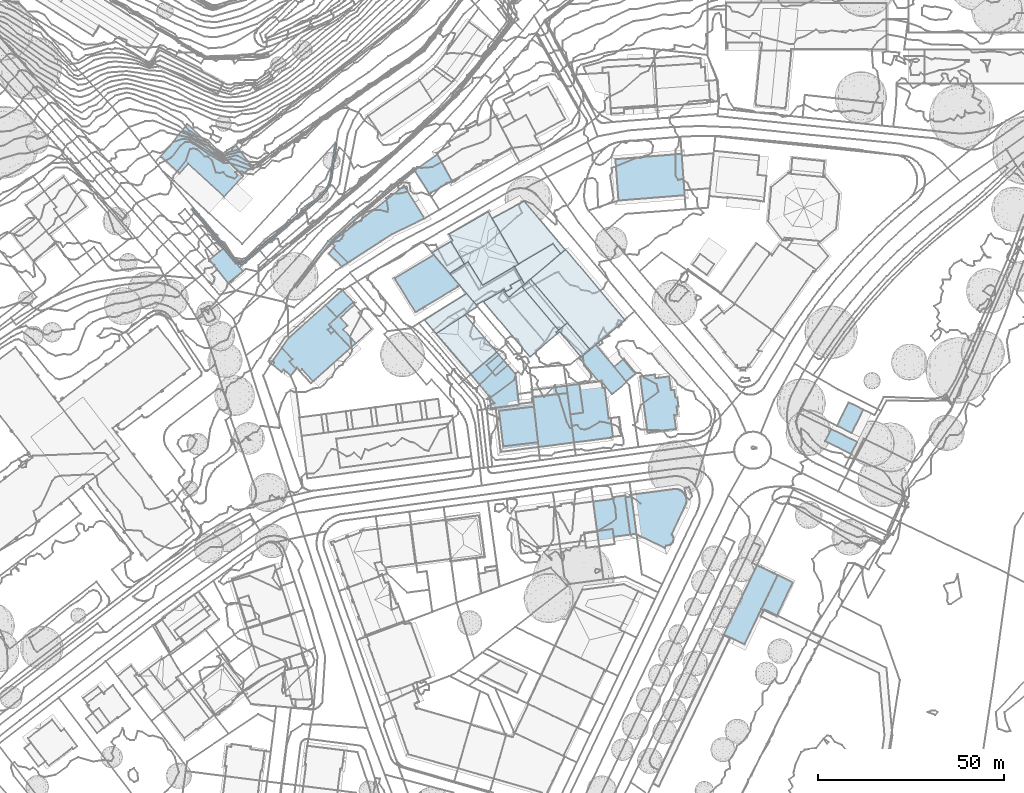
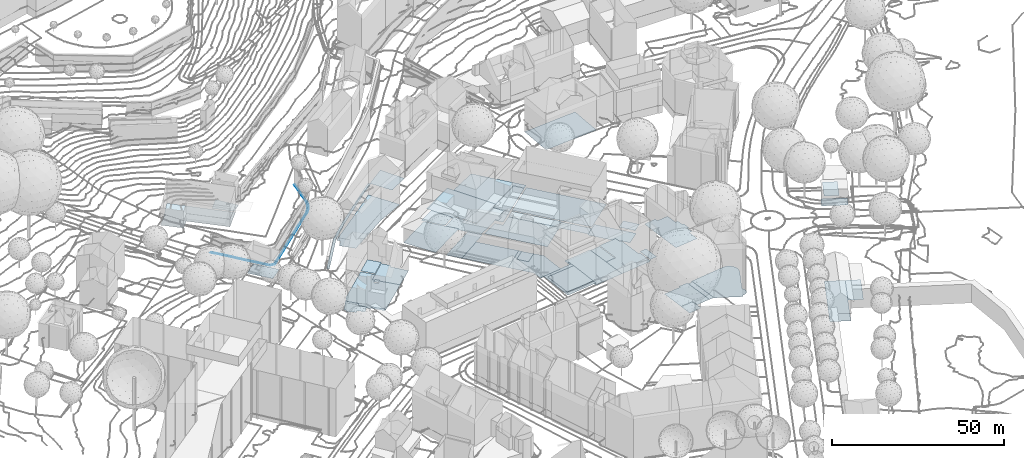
# Not in any storey, part 12 of 494: 26 footings.
"""IFC2X3 model written with IfcOpenShell, lengths in metres."""

from ifc_helpers import new_model, si_unit, frame, origin_with_axes, place, context, subcontext, project, faceted_brep, element, save


model = new_model("IFC2X3")

# Units and contexts
model_context = context("Model", 3, precision=1e-05, world=origin_with_axes())
body_context = subcontext(model_context, "Body", "Model", "MODEL_VIEW")
ifc_project = project(units=[si_unit("AREAUNIT", "SQUARE_METRE"), si_unit("LENGTHUNIT", "METRE")], contexts=[model_context])

# Footings
footing_1_placement = place(None, frame((211.8297320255, 101.9383160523, 526.7541), z_axis=(0.0, 0.0, 1.0), x_axis=(1.0, 0.0, 0.0)))
element("IfcFooting", 1, at=footing_1_placement, Name="Floor 6", PredefinedType="STRIP_FOOTING", context=body_context, shape_type="Brep", body=[
    faceted_brep([(249.8320000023, 131.75, -24.7557), (254.3800000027, 136.2890000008, -24.7557), (250.4350000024, 131.2080000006, -24.7557), (253.7380000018, 136.7811999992, -24.7557), (266.2190000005, 149.3291000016, -24.7556), (259.5580000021, 143.1543000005, -24.7556), (258.9550000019, 143.6981999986, -24.7556), (282.4279999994, 162.6162, -24.7556), (272.2770000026, 155.3280999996, -24.7556), (278.2740000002, 160.3418000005, -24.7556), (281.9240000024, 163.2490000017, -24.7556), (278.7850000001, 159.7148000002, -24.7556), (265.688000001, 149.9393999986, -24.7556), (272.7919999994, 154.7050999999, -24.7556)], [[[0, 1, 2]], [[0, 3, 1]], [[4, 5, 6]], [[3, 5, 1]], [[3, 6, 5]], [[7, 8, 9]], [[10, 7, 9]], [[11, 8, 7]], [[6, 12, 4]], [[8, 11, 12]], [[13, 4, 12]], [[11, 13, 12]]]),
])
footing_2_placement = place(None, frame((211.8297320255, 101.9383160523, 526.7541), z_axis=(0.0, 0.0, 1.0), x_axis=(1.0, 0.0, 0.0)))
element("IfcFooting", 2, at=footing_2_placement, Name="Floor 22", PredefinedType="STRIP_FOOTING", context=body_context, shape_type="Brep", body=[
    faceted_brep([(224.5700000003, 149.4979999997, -21.8519), (224.1130000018, 150.6992000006, -21.8519), (224.887000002, 149.7558000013, -21.8519), (223.8020000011, 150.4354999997, -21.8519), (230.3049999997, 142.3515000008, -21.8519), (222.6460000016, 152.3729999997, -21.8519), (222.3390000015, 152.1055000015, -21.8519), (234.1660000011, 137.6680000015, -21.8519), (235.6790000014, 137.8515000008, -21.8519), (235.8020000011, 137.4208999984, -21.8519), (234.381000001, 138.0487999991, -21.8519), (250.8890000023, 150.807599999, -21.8519), (251.1520000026, 150.495099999, -21.8519), (230.6209999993, 142.6094000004, -21.8519), (257.0040000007, 155.3935000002, -21.8519), (256.7200000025, 155.6875, -21.8519), (258.0700000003, 157.1942999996, -21.8519), (258.882000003, 158.6044999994, -21.8519), (258.4030000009, 156.9530999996, -21.8519), (259.2550000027, 158.433600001, -21.8519), (259.4840000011, 160.3339999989, -21.8519), (259.8830000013, 160.2391999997, -21.8519), (260.3660000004, 163.8740000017, -21.8519), (260.8489999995, 169.8828000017, -21.8519), (259.9620000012, 163.9316000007, -21.8519), (261.2530000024, 169.8222000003, -21.8519)], [[[0, 1, 2]], [[0, 3, 1]], [[2, 4, 0]], [[5, 1, 3]], [[3, 6, 5]], [[7, 8, 9]], [[7, 10, 8]], [[9, 11, 12]], [[10, 7, 13]], [[4, 2, 13]], [[9, 8, 11]], [[7, 4, 13]], [[14, 12, 15]], [[15, 16, 14]], [[12, 11, 15]], [[16, 17, 18]], [[18, 14, 16]], [[17, 19, 18]], [[20, 21, 19]], [[19, 17, 20]], [[20, 22, 21]], [[23, 22, 24]], [[22, 23, 25]], [[22, 20, 24]]]),
])
footing_3_placement = place(None, frame((541.9047320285, 175.7068160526, 499.9965), z_axis=(0.0, 0.0, 1.0), x_axis=(1.0, 0.0, 0.0)))
element("IfcFooting", 3, at=footing_3_placement, Name="Floor 0", PredefinedType="STRIP_FOOTING", context=body_context, shape_type="Brep", body=[
    faceted_brep([(5.7719999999, -11.4081999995, -0.055), (1.057, -7.9266999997, -0.055), (5.231999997, -7.3680999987, -0.055), (1.5959999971, -11.9668000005, -0.055), (7.068, 1.4023999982, 0.0), (9.9579999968, -8.871100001, 0.0), (5.231999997, -7.3680999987, 0.0), (5.6139999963, 0.7481000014, 0.0), (8.5829999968, 1.6055000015, 0.0), (5.5539999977, 1.1992999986, 0.0), (5.5289999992, -9.4618999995, 0.0), (5.5399999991, -9.6748000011, 0.0), (2.8939999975, 0.3858000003, 0.0), (0.6689999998, -5.0166000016, 0.0), (0.0, 0.0, 0.0), (1.057, -7.9266999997, 0.0), (5.557, -9.6728000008, 0.0), (9.9580999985, -8.8709999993, -0.078), (8.5830999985, 1.6055000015, -0.0781), (8.6780999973, 1.1552999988, -0.0781), (10.2219999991, 1.8262000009, -0.078), (9.9959999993, 1.3321000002, -0.078), (11.6259999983, -8.6484000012, -0.078), (11.5799999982, -8.308600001, -0.078), (9.2049999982, 1.2256000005, -0.078), (8.6169999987, 1.6114000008, -0.078), (9.9729999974, 1.5058999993, -0.078), (9.9349999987, 1.7881000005, -0.078)], [[[0, 1, 2]], [[1, 0, 3]], [[4, 5, 6]], [[6, 7, 4]], [[8, 5, 4]], [[4, 7, 9]], [[5, 10, 6]], [[6, 10, 11]], [[12, 7, 6]], [[6, 13, 12]], [[14, 12, 13]], [[15, 13, 6]], [[10, 16, 11]], [[17, 18, 19]], [[20, 17, 21]], [[22, 17, 23]], [[17, 20, 23]], [[17, 19, 24]], [[19, 18, 25]], [[20, 26, 27]], [[20, 21, 26]], [[21, 17, 24]]]),
])
footing_4_placement = place(None, frame((552.1267320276, 177.5330160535, 499.9185), z_axis=(0.0, 0.0, 1.0), x_axis=(1.0, 0.0, 0.0)))
element("IfcFooting", 4, at=footing_4_placement, Name="Floor 0", PredefinedType="STRIP_FOOTING", context=body_context, shape_type="Brep", body=[
    faceted_brep([(2.5260000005, -2.3779000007, 0.0), (0.0789999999, -0.563500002, 0.0), (5.9250000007, 0.7881000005, 0.0), (0.0, 0.0, 0.0), (0.4459999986, -3.3291000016, 0.0), (0.0789999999, -0.5859000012, 0.0), (1.4279999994, -10.6562000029, 0.0), (2.2459999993, -11.0516999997, 0.0), (13.0519999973, -5.8867000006, 0.0), (9.6290000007, 1.2793000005, 0.0), (11.2719999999, 1.498999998, 0.0), (14.1779999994, -3.5381000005, 0.0), (10.7780000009, -10.629900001, 0.0), (10.879999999, -10.7344000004, 0.0), (11.1559999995, -12.6357000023, -0.0001), (11.057, -10.9648000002, 0.0), (8.8770000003, -14.2539000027, -0.0001), (11.5439999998, 1.5312999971, 0.0), (11.818, 1.5400999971, 0.0), (11.1919999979, -11.2236000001, 0.0), (9.3559999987, -13.5976000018, -0.0001), (10.2159999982, -13.5029000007, -0.0001), (10.0779999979, -13.5478000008, -0.0001), (9.5009999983, -13.6123000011, -0.0001), (9.0099999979, -14.3183000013, -0.0001), (9.7919999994, -13.6055000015, -0.0001), (11.2949999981, -12.2226000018, -0.0001), (11.3239999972, -11.7871000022, 0.0), (11.3269999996, -11.933600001, 0.0), (11.2609999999, -12.3641999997, -0.0001), (10.7159999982, -13.2080000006, -0.0001), (10.4780000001, -13.3769000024, -0.0001), (11.0109999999, -12.8877000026, -0.0001), (10.8229999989, -13.1103000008, -0.0001), (11.2819999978, -11.4990000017, 0.0), (14.5260000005, -2.8115000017, 0.0), (12.0909999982, 1.5224999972, 0.0), (12.3609999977, 1.4814999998, 0.0), (12.6279999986, 1.4169999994, 0.0), (12.8869999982, 1.3280999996, 0.0), (13.2019999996, 1.1807000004, 0.0), (13.1369999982, 1.2157999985, 0.0), (13.6019999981, 0.927699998, 0.0), (13.8129999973, 0.753899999, 0.0), (13.3759999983, 1.0830000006, 0.0), (14.1840000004, 0.3525999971, 0.0), (14.3330000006, 0.1405999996, 0.0), (14.5729999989, -0.3144000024, 0.0), (14.0079999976, 0.5605999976, 0.0), (14.4619999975, -0.0810000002, 0.0), (14.7399999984, -2.1816000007, 0.0), (14.7630000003, -2.0780999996, 0.0), (14.7509999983, -0.8905999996, 0.0), (14.7049999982, -2.3291000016, 0.0), (14.6259999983, -2.5742000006, 0.0), (14.2989999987, -3.2842000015, 0.0), (14.6629999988, -0.5547000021, 0.0), (14.8039999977, -1.259800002, 0.0), (14.7339999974, -0.8027000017, 0.0), (14.7819999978, -1.0516999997, 0.0), (14.8159999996, -1.567400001, 0.0), (14.8000000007, -1.8242000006, 0.0), (14.8099999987, -1.3104999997, 0.0)], [[[0, 1, 2]], [[3, 2, 1]], [[0, 4, 5]], [[0, 6, 4]], [[7, 6, 0]], [[8, 7, 0]], [[2, 8, 0]], [[8, 2, 9]], [[9, 10, 11]], [[12, 13, 14]], [[15, 14, 13]], [[8, 12, 7]], [[12, 16, 7]], [[17, 18, 10]], [[19, 14, 15]], [[12, 20, 16]], [[21, 22, 12]], [[12, 23, 20]], [[20, 24, 16]], [[22, 25, 12]], [[25, 23, 12]], [[26, 14, 19]], [[27, 28, 26]], [[19, 27, 26]], [[29, 14, 26]], [[30, 31, 12]], [[14, 32, 33]], [[12, 33, 30]], [[12, 14, 33]], [[21, 12, 31]], [[27, 19, 34]], [[35, 18, 36]], [[35, 36, 37]], [[35, 38, 39]], [[35, 37, 38]], [[40, 39, 41]], [[42, 43, 44]], [[40, 44, 35]], [[44, 43, 45]], [[45, 35, 44]], [[46, 47, 45]], [[43, 48, 45]], [[39, 40, 35]], [[49, 47, 46]], [[35, 45, 50]], [[45, 51, 50]], [[47, 52, 51]], [[53, 54, 50]], [[8, 9, 11]], [[55, 18, 35]], [[55, 11, 10]], [[50, 54, 35]], [[47, 51, 45]], [[52, 47, 56]], [[51, 52, 57]], [[52, 56, 58]], [[52, 59, 57]], [[51, 60, 61]], [[62, 60, 57]], [[57, 60, 51]], [[18, 55, 10]]]),
])
footing_5_placement = place(None, frame((498.6247320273, 242.5555160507, 500.7935), z_axis=(0.0, 0.0, 1.0), x_axis=(1.0, 0.0, 0.0)))
element("IfcFooting", 5, at=footing_5_placement, Name="Floor 0", PredefinedType="STRIP_FOOTING", context=body_context, shape_type="Brep", body=[
    faceted_brep([(18.7349999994, -10.3310999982, -0.6109), (13.5709999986, -8.7636999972, -0.6109), (18.6279999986, -10.191399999, -0.6109), (22.1109999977, -3.7314999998, -0.6109), (19.3709999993, -9.7636999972, -0.6109), (20.9739999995, -8.8407999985, -0.6109), (21.4030000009, -9.5859999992, -0.6109), (19.8000000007, -10.5088, -0.6109), (24.0399999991, -7.0761999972, -0.6109), (11.9100000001, -14.0595999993, -0.6109), (4.7369999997, -5.5927999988, -0.6109), (13.7329999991, -13.0097999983, -0.6109), (13.8579999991, -13.1591999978, -0.6109), (9.6979999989, -2.5058999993, -0.6109), (4.5920000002, 4.933600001, -0.3969), (15.112999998, 10.9550999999, -0.3969), (5.5850000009, 3.1972000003, -0.3969), (23.2469999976, -3.1708999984, -0.397), (22.1109999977, -3.7314999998, -0.397), (22.1510000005, -3.8017999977, -0.397), (9.6979999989, -2.5058999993, -0.3969), (8.6909999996, -3.1327999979, -0.3969), (5.1400000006, 2.942400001, -0.3969), (13.5709999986, -8.7636999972, -0.397), (5.1400000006, 2.942400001, 0.0), (4.7369999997, -5.5927999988, 0.0), (0.0, 0.0, 0.0), (8.6909999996, -3.1327999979, 0.0)], [[[0, 1, 2]], [[3, 4, 1]], [[5, 6, 4]], [[7, 4, 6]], [[5, 3, 8]], [[4, 2, 1]], [[9, 10, 11]], [[12, 11, 1]], [[4, 3, 5]], [[11, 10, 1]], [[13, 1, 10]], [[0, 12, 1]], [[14, 15, 16]], [[17, 18, 15]], [[17, 19, 18]], [[20, 15, 18]], [[16, 21, 22]], [[20, 18, 23]], [[21, 16, 20]], [[20, 16, 15]], [[24, 25, 26]], [[25, 24, 27]]]),
])
footing_6_placement = place(None, frame((509.0277320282, 209.8641160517, 500.1695), z_axis=(0.0, 0.0, 1.0), x_axis=(1.0, 0.0, 0.0)))
element("IfcFooting", 6, at=footing_6_placement, Name="Floor 0", PredefinedType="STRIP_FOOTING", context=body_context, shape_type="Brep", body=[
    faceted_brep([(9.9829999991, 2.4756000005, -0.036), (6.6600000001, -0.3438000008, -0.036), (8.7029999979, 3.9756000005, -0.036), (7.5979999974, 5.2714000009, -0.036), (4.2829999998, 2.4598999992, -0.036), (7.5979999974, 5.2714000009, 0.0), (4.2829999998, 2.4598999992, 0.0), (6.993999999, 5.9794999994, 0.0), (3.3189999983, 2.8379000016, 0.0), (9.9829999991, 2.4756000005, 0.0), (12.0689999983, 0.0302000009, 0.0), (6.6600000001, -0.3438000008, 0.0), (0.0, 0.0, 0.0), (0.9890000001, 0.8456999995, 0.0), (4.9479999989, -5.8213, 0.0), (5.0979999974, -5.9970999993, 0.0), (12.9749999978, -8.1699999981, 0.0), (11.2359999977, -8.3993999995, 0.0), (7.9239999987, -8.8359999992, 0.0), (5.6979999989, -9.128899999, 0.0), (5.4809999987, -9.1572999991, 0.0), (6.435999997, -9.0313000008, 0.0), (5.7249999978, -9.3515999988, 0.0), (5.5069999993, -9.3759999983, 0.0)], [[[0, 1, 2]], [[2, 1, 3]], [[1, 4, 3]], [[5, 6, 7]], [[6, 8, 7]], [[9, 10, 11]], [[12, 13, 14]], [[14, 13, 11]], [[13, 8, 6]], [[11, 13, 6]], [[11, 15, 14]], [[16, 17, 11]], [[18, 15, 17]], [[17, 15, 11]], [[19, 20, 15]], [[15, 21, 19]], [[19, 22, 20]], [[20, 22, 23]], [[18, 21, 15]], [[11, 10, 16]]]),
])
footing_7_placement = place(None, frame((512.3577320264, 229.5457160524, 499.1847), z_axis=(0.0, 0.0, 1.0), x_axis=(1.0, 0.0, 0.0)))
element("IfcFooting", 7, at=footing_7_placement, Name="Floor 0", PredefinedType="STRIP_FOOTING", context=body_context, shape_type="Brep", body=[
    faceted_brep([(20.5769999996, -8.1981999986, -0.2251), (19.5500000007, -8.4013999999, -0.225), (22.6040000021, -5.8291000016, -0.225), (22.0139999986, -9.9072000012, -0.2251), (19.8770000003, -8.7890999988, -0.2251), (28.6840000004, -13.0458999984, -0.2251), (26.3229999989, -15.0322000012, -0.2251), (28.6840000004, -13.0458999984, 0.2619), (22.9970000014, -6.2949000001, 0.2619), (33.3579999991, -9.1152000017, 0.2619), (35.0989999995, -1.5947000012, 0.2619), (22.6040000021, -5.8291000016, 0.2619), (32.1220000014, 1.9580000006, 0.2619), (38.0760000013, -5.1475000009, 0.2619), (17.3909999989, 9.8418000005, 0.2619), (22.0749999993, 13.6963, 0.2619), (22.0300000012, 13.7490000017, 0.2619), (22.1979999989, 13.7987999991, 0.2619), (12.7190000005, 5.9063000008, 0.2619), (17.3909999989, 9.8418000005, 1.1238), (18.7419999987, 15.3828000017, 1.1239), (20.8209999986, 12.7314000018, 1.1238), (9.5139999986, 9.8388999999, 1.1239), (9.4670000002, 9.9199000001, 1.1239), (10.307, 5.933600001, 1.1238), (12.7190000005, 5.9063000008, 1.1238), (11.1059999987, 4.5478999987, 1.1238), (9.9090000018, 5.7050999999, 1.1238), (8.0230000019, 8.9814000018, 1.1239), (2.4330000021, 22.1367000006, 1.1869), (18.7419999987, 15.3828000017, 1.1868), (9.4670000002, 9.9199000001, 1.1868), (11.0240000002, 26.817400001, 1.1869), (22.0300000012, 13.7490000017, 1.1868), (20.8209999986, 12.7314000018, 1.1868), (12.7190000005, 5.9063000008, -0.032), (20.2410000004, -7.8192999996, -0.0321), (10.3460000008, 3.9072000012, -0.032), (22.6040000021, -5.8291000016, -0.0321), (20.5769999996, -8.1981999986, -0.0321), (20.6440000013, -8.2773000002, -0.0321), (20.5670000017, -8.2060000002, -0.0321), (11.1059999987, 4.5478999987, 1.0359), (7.6700000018, 3.4237999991, 1.0359), (10.307, 5.933600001, 1.0359), (6.9270000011, 1.0273000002, 1.0359), (6.0670000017, 2.5009999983, 1.0359), (5.2470000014, 3.0214999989, 1.0359), (5.6380000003, 3.246100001, 1.0359), (7.2410000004, 4.1689000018, 1.0359), (6.9270000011, 1.0273000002, -0.002), (12.550999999, -14.9756000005, -0.0001), (0.0, 0.0, 0.0), (5.2470000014, 3.0214999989, 0.0), (19.5500000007, -8.4013999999, -0.0021), (10.3460000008, 3.9072000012, -0.002), (16.8289999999, -11.3632999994, -0.0021), (19.8770000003, -8.7890999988, -0.0021), (20.2410000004, -7.8192999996, -0.0021)], [[[0, 1, 2]], [[2, 3, 0]], [[1, 0, 4]], [[2, 5, 3]], [[6, 3, 5]], [[7, 8, 9]], [[8, 10, 9]], [[8, 11, 12]], [[13, 9, 10]], [[10, 8, 12]], [[11, 14, 12]], [[14, 15, 12]], [[16, 15, 14]], [[12, 15, 17]], [[18, 14, 11]], [[19, 20, 21]], [[22, 23, 20]], [[22, 20, 24]], [[19, 24, 20]], [[25, 26, 24]], [[27, 28, 22]], [[24, 27, 22]], [[19, 25, 24]], [[29, 30, 31]], [[29, 32, 30]], [[33, 34, 30]], [[30, 32, 33]], [[35, 36, 37]], [[36, 35, 38]], [[39, 40, 41]], [[42, 43, 44]], [[45, 46, 43]], [[43, 42, 45]], [[45, 47, 46]], [[46, 47, 48]], [[49, 44, 43]], [[50, 51, 52]], [[52, 53, 50]], [[54, 50, 55]], [[51, 50, 56]], [[54, 57, 56]], [[50, 54, 56]], [[54, 55, 58]]]),
])
footing_8_placement = place(None, frame((525.5527320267, 205.6209160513, 499.3996), z_axis=(0.0, 0.0, 1.0), x_axis=(1.0, 0.0, 0.0)))
element("IfcFooting", 8, at=footing_8_placement, Name="Floor 0", PredefinedType="STRIP_FOOTING", context=body_context, shape_type="Brep", body=[
    faceted_brep([(9.4659999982, -0.8192999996, 0.0), (0.0, 0.0, 0.0), (9.2019999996, 1.1709000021, 0.0), (0.2149999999, -1.9267999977, 0.0), (9.4659999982, -0.8192999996, 0.005), (10.3379999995, -7.3817999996, 0.005), (0.2149999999, -1.9267999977, 0.005), (0.9470000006, -8.5067999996, 0.005), (11.2259999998, -14.0683999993, 0.005), (1.7030000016, -15.2881000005, 0.005)], [[[0, 1, 2]], [[1, 0, 3]], [[4, 5, 6]], [[6, 5, 7]], [[8, 9, 7]], [[5, 8, 7]]]),
])
footing_9_placement = place(None, frame((514.7257320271, 200.7361160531, 500.1685), z_axis=(0.0, 0.0, 1.0), x_axis=(1.0, 0.0, 0.0)))
element("IfcFooting", 9, at=footing_9_placement, Name="Floor 0", PredefinedType="STRIP_FOOTING", context=body_context, shape_type="Brep", body=[
    faceted_brep([(2.3530000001, -11.7098999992, 0.0), (3.057, -10.2334000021, 0.0), (6.5789999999, -11.1669999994, 0.0), (2.3220000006, -11.4365000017, 0.0), (1.0610000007, -0.1093000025, 0.0), (12.3869999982, -9.1162, 0.0), (12.5300000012, -10.4033000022, 0.0), (7.2769999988, 0.9580000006, 0.0), (11.3220000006, 0.4316999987, 0.0), (1.9140000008, -0.6953000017, 0.0), (0.0269999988, -0.2246000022, 0.0), (0.0, 0.0, 0.0), (1.0760000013, 0.1415999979, 0.0), (10.8610000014, 1.5976999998, 0.0), (7.2529999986, 1.1455000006, 0.0), (10.7399999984, 2.6855999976, 0.0), (11.068, 2.7245999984, 0.0), (3.057, -10.2334000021, 0.053), (11.8409999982, -4.2168000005, 0.053), (12.3869999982, -9.1162, 0.053), (1.9140000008, -0.6953000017, 0.053), (11.3220000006, 0.4316999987, 0.053)], [[[0, 1, 2]], [[1, 3, 4]], [[1, 0, 3]], [[5, 2, 1]], [[5, 6, 2]], [[7, 8, 9]], [[10, 11, 4]], [[1, 4, 9]], [[12, 4, 11]], [[7, 9, 12]], [[13, 8, 14]], [[15, 16, 13]], [[16, 8, 13]], [[8, 7, 14]], [[9, 4, 12]], [[17, 18, 19]], [[20, 21, 18]], [[18, 17, 20]]]),
])
footing_10_placement = place(None, frame((547.5217320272, 211.8914160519, 499.8985), z_axis=(0.0, 0.0, 1.0), x_axis=(1.0, 0.0, 0.0)))
element("IfcFooting", 10, at=footing_10_placement, Name="Floor 0", PredefinedType="STRIP_FOOTING", context=body_context, shape_type="Brep", body=[
    faceted_brep([(3.1939999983, -3.8847999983, 0.0), (0.0, 0.0, 0.0), (5.8509999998, -1.6992000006, 0.0), (2.6569999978, 2.1856000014, 0.0)], [[[0, 1, 2]], [[3, 2, 1]]]),
])
footing_11_placement = place(None, frame((534.7547320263, 206.7918160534, 499.1526), z_axis=(0.0, 0.0, 1.0), x_axis=(1.0, 0.0, 0.0)))
element("IfcFooting", 11, at=footing_11_placement, Name="Floor 0", PredefinedType="STRIP_FOOTING", context=body_context, shape_type="Brep", body=[
    faceted_brep([(1.0230000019, -7.7012000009, 0.0), (3.4640000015, 0.4452999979, 0.0), (4.4849999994, -7.2412, 0.0), (0.0, 0.0, 0.0), (12.4660000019, -13.7118999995, 0.7669), (14.0639999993, -8.4043000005, 0.7669), (14.7080000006, -13.4238000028, 0.7669), (11.8640000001, -8.6875, 0.7669), (12.4660000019, -13.7118999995, 0.252), (11.3170000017, -8.7578000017, 0.252), (11.8640000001, -8.6875, 0.252), (11.9609999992, -13.7773000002, 0.252), (11.6950000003, -13.9932000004, 0.252), (9.6669999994, -0.7021000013, 0.252), (10.0350000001, -0.6553000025, 0.252), (10.2719999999, -0.6240000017, 0.252), (11.9840000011, -13.9561000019, 0.252), (4.4849999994, -7.2412, 0.252), (2.0240000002, -15.2393000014, 0.252), (1.0230000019, -7.7012000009, 0.252), (3.6799999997, -1.1797000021, 0.252), (9.3420000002, 1.2011999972, 0.247), (9.5300000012, 0.1006000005, 0.252), (3.4640000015, 0.4452999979, 0.247), (3.7320000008, -1.5742000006, 0.249)], [[[0, 1, 2]], [[1, 0, 3]], [[4, 5, 6]], [[5, 4, 7]], [[8, 9, 10]], [[11, 9, 8]], [[9, 11, 12]], [[9, 13, 14]], [[15, 9, 14]], [[16, 12, 11]], [[13, 9, 17]], [[12, 18, 17]], [[17, 18, 19]], [[20, 21, 22]], [[22, 13, 20]], [[23, 21, 20]], [[20, 13, 24]], [[17, 24, 13]], [[9, 12, 17]]]),
])
footing_12_placement = place(None, frame((538.2627320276, 214.1619160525, 498.9856), z_axis=(0.0, 0.0, 1.0), x_axis=(1.0, 0.0, 0.0)))
element("IfcFooting", 12, at=footing_12_placement, Name="Floor 0", PredefinedType="STRIP_FOOTING", context=body_context, shape_type="Brep", body=[
    faceted_brep([(5.8339999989, -6.1689000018, 0.0), (5.1739999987, -6.253899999, 0.0), (0.0, 0.0, 0.0), (4.3709999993, 3.6757999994, 0.0), (12.6369999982, -6.378899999, 0.0), (8.699000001, -9.6191000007, 0.0)], [[[0, 1, 2]], [[2, 3, 0]], [[4, 5, 0]], [[0, 3, 4]]]),
])
footing_13_placement = place(None, frame((496.6027320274, 224.4773160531, 500.1476), z_axis=(0.0, 0.0, 1.0), x_axis=(1.0, 0.0, 0.0)))
element("IfcFooting", 13, at=footing_13_placement, Name="Floor 0", PredefinedType="STRIP_FOOTING", context=body_context, shape_type="Brep", body=[
    faceted_brep([(10.8440000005, 1.4199999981, 0.0), (3.1209999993, -3.6709000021, 0.0), (0.0, 0.0, 0.0), (11.3509999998, 7.0665000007, 0.0), (10.8959999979, 1.3594000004, 0.0), (14.2529999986, 3.6387000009, 0.0), (15.743999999, -11.7752999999, 0.0219), (12.6329999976, -14.4345000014, 0.0219), (3.1209999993, -3.6709000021, 0.022), (10.8959999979, 1.3594000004, 0.022), (19.4189999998, -8.633700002, 0.0219), (12.4250000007, -14.6123000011, 0.0219)], [[[0, 1, 2]], [[2, 3, 0]], [[0, 4, 1]], [[0, 3, 5]], [[6, 7, 8]], [[6, 9, 10]], [[11, 8, 7]], [[8, 9, 6]]]),
])
footing_14_placement = place(None, frame((488.6637320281, 235.6004160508, 500.5996), z_axis=(0.0, 0.0, 1.0), x_axis=(1.0, 0.0, 0.0)))
element("IfcFooting", 14, at=footing_14_placement, Name="Floor 0", PredefinedType="STRIP_FOOTING", context=body_context, shape_type="Brep", body=[
    faceted_brep([(0.2669999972, -0.431599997, 0.0), (10.4849999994, 6.3359000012, 0.0), (3.6600000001, -5.9403999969, -0.0001), (0.0, 0.0, 0.0), (6.4139999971, 3.876000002, 0.0), (5.5909999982, -9.0761999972, -0.0001), (6.7960000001, -8.3486000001, -0.0001), (7.5289999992, -7.9052999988, -0.0001), (8.1730000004, -7.5165999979, -0.0001), (11.7060000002, -5.3847999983, -0.0001), (17.4029999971, -1.8290999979, -0.0001), (16.8889999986, -2.1386999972, -0.0001), (15.0130000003, -3.3876999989, -0.0001), (16.9409999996, -2.2245999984, -0.0001)], [[[0, 1, 2]], [[0, 3, 4]], [[5, 2, 6]], [[6, 2, 7]], [[7, 2, 8]], [[2, 1, 9]], [[1, 10, 11]], [[1, 11, 12]], [[9, 8, 2]], [[11, 13, 12]], [[1, 12, 9]], [[0, 4, 1]]]),
])
footing_15_placement = place(None, frame((554.542732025, 209.2947160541, 500.1665), z_axis=(0.0, 0.0, 1.0), x_axis=(1.0, 0.0, 0.0)))
element("IfcFooting", 15, at=footing_15_placement, Name="Floor 0", PredefinedType="STRIP_FOOTING", context=body_context, shape_type="Brep", body=[
    faceted_brep([(3.8100000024, -14.8584000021, 0.0), (0.8530000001, -6.8906000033, 0.0), (4.3740000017, -14.7842000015, 0.0), (6.8150000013, -14.4687000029, 0.0), (5.5360000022, -14.6338, 0.0), (9.1190000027, -10.3896000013, 0.0), (1.9290000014, -15.1006000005, 0.0), (7.3859999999, -14.3955000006, 0.0), (9.6060000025, -14.1084000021, 0.0), (9.7320000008, -8.1513000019, 0.0), (10.0100000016, -10.2734000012, 0.0), (9.9539999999, -5.6728000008, 0.0), (10.251000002, -8.0830000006, 0.0), (9.4160000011, -5.7441000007, 0.0), (8.2460000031, -3.7392000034, 0.0), (1.949000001, 0.2402999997, 0.0), (4.0899999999, -0.5019000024, 0.0), (0.1340000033, -1.0215000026, 0.0), (0.0840000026, -1.0273000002, 0.0), (0.0, 0.0, 0.0), (3.9600000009, 0.4882999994, 0.0), (9.1380000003, -3.6220000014, 0.0), (8.2149999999, -3.5039000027, 0.0), (5.8390000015, -0.2734000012, 0.0), (8.0240000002, -2.0400000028, 0.0), (7.7590000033, -0.0215000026, 0.0)], [[[0, 1, 2]], [[3, 4, 5]], [[1, 4, 2]], [[1, 0, 6]], [[4, 1, 5]], [[7, 5, 8]], [[9, 10, 5]], [[9, 11, 12]], [[7, 3, 5]], [[9, 5, 13]], [[13, 11, 9]], [[5, 1, 14]], [[15, 16, 1]], [[1, 17, 15]], [[18, 17, 1]], [[14, 1, 16]], [[15, 17, 19]], [[16, 15, 20]], [[14, 21, 13]], [[14, 13, 5]], [[22, 14, 23]], [[24, 22, 23]], [[23, 25, 24]], [[14, 16, 23]]]),
])
footing_16_placement = place(None, frame((455.8447320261, 213.3826160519, 501.6645), z_axis=(0.0, 0.0, 1.0), x_axis=(1.0, 0.0, 0.0)))
element("IfcFooting", 16, at=footing_16_placement, Name="Floor 0", PredefinedType="STRIP_FOOTING", context=body_context, shape_type="Brep", body=[
    faceted_brep([(23.1070000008, 12.9658000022, -0.623), (20.9640000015, 3.5791000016, -0.623), (15.1530000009, 9.8632999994, -0.623), (21.6680000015, 15.5527999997, -0.623), (26.618999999, 8.6055000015, -0.623), (21.6150000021, 15.8379000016, -0.623), (21.7829999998, 15.6572000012, -0.623), (23.5980000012, 13.4081999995, -0.623), (16.6270000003, 12.5205000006, -0.301), (18.9400000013, 18.938500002, -0.304), (21.6150000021, 15.8379000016, -0.304), (17.2719999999, 11.822300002, -0.304), (17.7190000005, 12.2362999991, -0.301), (14.2829999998, 15.0547000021, -0.304), (21.7329999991, 15.8330000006, -0.304), (21.8430000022, 15.7109999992, -0.304), (21.7829999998, 15.6572000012, -0.304), (18.811999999, 19.0800999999, -0.304), (7.943, -2.1805999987, -0.383), (10.8940000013, -5.3720000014, -0.383), (7.4279999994, -2.6581999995, -0.383), (10.3249999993, -5.8779000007, -0.383), (2.4530000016, -2.9120999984, -0.0001), (0.4869999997, -0.3984000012, 0.0), (2.9230000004, -2.3134999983, -0.0001), (3.7459999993, -2.9609000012, -0.0001), (6.3650000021, -2.0507999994, -0.0001), (4.879999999, -3.8524999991, -0.0001), (4.5920000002, -0.1327999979, 0.0), (0.0030000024, -0.9853000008, 0.0), (0.0, 0.0, 0.0), (0.1500000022, 0.2353999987, 0.0), (0.2950000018, 0.4600000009, 0.0), (2.5340000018, 3.6689999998, 0.0), (5.3770000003, 0.5938000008, 0.0), (14.2829999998, 15.0547000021, -0.601), (15.1530000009, 9.8632999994, -0.601), (11.2019999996, 12.316399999, -0.601), (7.868999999, 9.3544999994, -0.601), (17.2719999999, 11.822300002, -0.601), (14.8150000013, 8.4092000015, -0.601), (5.3770000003, 0.5938000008, -0.601), (4.6510000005, 6.4932000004, -0.601), (4.2650000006, 6.1504000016, -0.601), (2.5340000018, 3.6689999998, -0.601), (4.5920000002, -0.1327999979, -0.601), (6.6119999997, -1.7509999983, -0.601), (15.7219999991, 9.2481000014, -0.601), (16.6730000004, 8.2188000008, -0.601), (20.0399999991, 2.7578000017, -0.601), (15.7659999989, 7.379900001, -0.601), (7.943, -2.1805999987, -0.601), (17.175999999, 0.2109999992, -0.601), (20.9640000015, 3.5791000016, -0.601), (16.5760000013, -0.3222000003, -0.601), (7.4279999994, -2.6581999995, -0.601), (6.3650000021, -2.0507999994, -0.601), (13.4890000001, -3.0643999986, -0.601), (10.8940000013, -5.3720000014, -0.601), (14.8150000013, 8.4092000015, -0.301), (16.6730000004, 8.2188000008, -0.301), (15.7659999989, 7.379900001, -0.301), (15.7219999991, 9.2481000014, -0.301)], [[[0, 1, 2]], [[2, 3, 0]], [[1, 0, 4]], [[5, 6, 3]], [[3, 2, 5]], [[7, 0, 3]], [[8, 9, 10]], [[11, 8, 12]], [[12, 8, 10]], [[13, 9, 8]], [[10, 9, 14]], [[14, 15, 16]], [[10, 14, 16]], [[13, 17, 9]], [[18, 19, 20]], [[21, 20, 19]], [[22, 23, 24]], [[25, 26, 27]], [[24, 28, 25]], [[29, 23, 22]], [[30, 31, 23]], [[32, 23, 31]], [[28, 32, 33]], [[24, 23, 28]], [[28, 26, 25]], [[23, 32, 28]], [[34, 28, 33]], [[35, 36, 37]], [[37, 36, 38]], [[36, 35, 39]], [[40, 38, 36]], [[38, 41, 42]], [[42, 41, 43]], [[44, 43, 41]], [[45, 41, 46]], [[38, 40, 41]], [[40, 36, 47]], [[48, 49, 50]], [[50, 51, 41]], [[52, 50, 49]], [[49, 48, 53]], [[50, 52, 54]], [[51, 46, 41]], [[46, 51, 55]], [[45, 46, 56]], [[51, 57, 58]], [[51, 54, 57]], [[54, 51, 50]], [[50, 41, 40]], [[59, 60, 61]], [[60, 59, 62]]]),
])
footing_17_placement = place(None, frame((438.9327320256, 240.6023160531, 504.1533), z_axis=(0.0, 0.0, 1.0), x_axis=(1.0, 0.0, 0.0)))
element("IfcFooting", 17, at=footing_17_placement, Name="Floor 0", PredefinedType="STRIP_FOOTING", context=body_context, shape_type="Brep", body=[
    faceted_brep([(3.887000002, 3.1845999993, 0.0), (9.0270000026, -3.0410000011, 0.0), (0.0, 0.0, 0.0), (5.0720000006, -6.2041000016, 0.0)], [[[0, 1, 2]], [[3, 2, 1]]]),
])
footing_18_placement = place(None, frame((425.7767320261, 268.3191160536, 508.9989), z_axis=(0.0, 0.0, 1.0), x_axis=(1.0, 0.0, 0.0)))
element("IfcFooting", 18, at=footing_18_placement, Name="Floor 0", PredefinedType="STRIP_FOOTING", context=body_context, shape_type="Brep", body=[
    faceted_brep([(7.1429999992, 8.7050999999, 0.0), (7.4890000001, -1.9912, -0.0001), (2.5460000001, 2.7441999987, 0.0), (5.0830000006, -4.6328000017, -0.0001), (0.0, 0.0, 0.0), (17.0710000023, -10.821200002, -0.0001), (22.1209999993, -5.3447000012, -0.0001)], [[[0, 1, 2]], [[2, 3, 4]], [[3, 2, 1]], [[5, 0, 6]], [[0, 5, 1]]]),
])
footing_19_placement = place(None, frame((442.9097320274, 267.9930160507, 509.1738), z_axis=(0.0, 0.0, 1.0), x_axis=(1.0, 0.0, 0.0)))
element("IfcFooting", 19, at=footing_19_placement, Name="Floor 0", PredefinedType="STRIP_FOOTING", context=body_context, shape_type="Brep", body=[
    faceted_brep([(3.1079999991, 3.3779000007, 0.0), (4.7719999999, -4.5214999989, 0.0), (0.0, 0.0, 0.0), (7.5339999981, -2.4501999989, 0.0)], [[[0, 1, 2]], [[1, 0, 3]]]),
])
footing_20_placement = place(None, frame((547.8737320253, 267.5604160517, 499.9486), z_axis=(0.0, 0.0, 1.0), x_axis=(1.0, 0.0, 0.0)))
element("IfcFooting", 20, at=footing_20_placement, Name="Floor 0", PredefinedType="STRIP_FOOTING", context=body_context, shape_type="Brep", body=[
    faceted_brep([(0.8170000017, -10.9189999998, 0.0), (0.0, 0.0, 0.0), (5.5540000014, -10.7177999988, 0.0), (7.6469999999, -10.5498999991, 0.0), (18.0810000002, -2.7382999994, 0.0), (0.8300000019, -11.0957999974, 0.0), (18.5820000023, -9.6767999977, 0.0), (18.4820000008, -8.2890999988, 0.0), (17.7800000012, 1.4237999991, 0.0), (17.9920000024, -1.5088, 0.0), (18.2400000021, -4.928799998, 0.0), (18.382000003, -6.9013999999, 0.0)], [[[0, 1, 2]], [[3, 1, 4]], [[0, 2, 5]], [[6, 3, 7]], [[3, 2, 1]], [[1, 8, 9]], [[1, 9, 4]], [[10, 3, 4]], [[3, 11, 7]], [[3, 10, 11]]]),
])
footing_21_placement = place(None, frame((470.9207320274, 242.2430160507, 501.6435), z_axis=(0.0, 0.0, 1.0), x_axis=(1.0, 0.0, 0.0)))
element("IfcFooting", 21, at=footing_21_placement, Name="Floor 0", PredefinedType="STRIP_FOOTING", context=body_context, shape_type="Brep", body=[
    faceted_brep([(0.0, 0.0, 0.0), (1.2699999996, 1.5713, 0.0), (5.1559999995, -2.4404999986, 0.0), (3.5179999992, -3.4912, 0.0), (1.2699999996, 1.5713, -0.013), (1.6409999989, 2.0302000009, -0.013), (10.0469999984, 10.1718000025, -0.013), (13.8680000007, 3.2002000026, -0.013), (5.6640000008, -2.1142999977, -0.013), (5.1559999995, -2.4404999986, -0.013), (0.7089999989, 2.9443000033, -0.013), (17.0040000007, 5.2304000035, -0.013), (12.2729999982, 11.8955000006, -0.013), (19.9019999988, 17.9834000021, -0.013), (25.7829999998, 9.4521000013, -0.013), (20.2749999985, 18.2802000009, -0.013)], [[[0, 1, 2]], [[3, 0, 2]], [[4, 5, 6]], [[4, 6, 7]], [[8, 9, 4]], [[4, 7, 8]], [[10, 6, 5]], [[11, 7, 12]], [[12, 13, 14]], [[14, 13, 15]], [[12, 14, 11]], [[7, 6, 12]]]),
])
footing_22_placement = place(None, frame((494.0337320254, 264.5447160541, 502.2364), z_axis=(0.0, 0.0, 1.0), x_axis=(1.0, 0.0, 0.0)))
element("IfcFooting", 22, at=footing_22_placement, Name="Floor 0", PredefinedType="STRIP_FOOTING", context=body_context, shape_type="Brep", body=[
    faceted_brep([(6.0700000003, 4.3662, 0.0), (4.325000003, -5.9463, 0.0), (0.0, 0.0, 0.0), (10.0240000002, -2.7998000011, 0.0), (4.3949999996, -6.0722000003, 0.0), (3.9730000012, -6.3047000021, 0.0)], [[[0, 1, 2]], [[0, 3, 1]], [[4, 5, 1]], [[5, 2, 1]]]),
])
footing_23_placement = place(None, frame((576.9417320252, 139.999816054, 499.5324), z_axis=(0.0, 0.0, 1.0), x_axis=(1.0, 0.0, 0.0)))
element("IfcFooting", 23, at=footing_23_placement, Name="Floor 0", PredefinedType="STRIP_FOOTING", context=body_context, shape_type="Brep", body=[
    faceted_brep([(2.893000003, -1.3857000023, 0.0), (1.6150000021, -0.7744000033, 0.0), (5.007000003, 10.4706999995, 0.0), (0.0, 0.0, 0.0), (11.6380000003, 10.1640999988, 0.0), (9.4790000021, 5.6454999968, 0.0), (11.7790000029, 17.2362999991, 0.0), (8.7360000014, 4.0917999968, 0.0), (7.3740000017, 1.2431999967, 0.0), (5.5170000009, -2.6425999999, 0.0), (12.7589999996, 16.7655999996, 0.0), (13.5360000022, 16.3935999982, 0.0), (10.4990000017, 17.8486000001, 0.0001), (9.6220000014, 18.2694999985, 0.0001), (8.9010000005, 18.615199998, 0.0001), (14.4150000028, 15.9726999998, 0.0)], [[[0, 1, 2]], [[3, 2, 1]], [[0, 4, 5]], [[2, 6, 0]], [[0, 5, 7]], [[0, 8, 9]], [[8, 0, 7]], [[0, 6, 4]], [[6, 10, 4]], [[10, 11, 4]], [[12, 2, 13]], [[2, 12, 6]], [[14, 13, 2]], [[4, 11, 15]]]),
])
footing_24_placement = place(None, frame((586.985732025, 146.8299160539, 499.5454), z_axis=(0.0, 0.0, 1.0), x_axis=(1.0, 0.0, 0.0)))
element("IfcFooting", 24, at=footing_24_placement, Name="Floor 0", PredefinedType="STRIP_FOOTING", context=body_context, shape_type="Brep", body=[
    faceted_brep([(4.0789999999, -1.9502000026, 0.0), (0.0, 0.0, 0.0), (4.3710000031, 9.1425999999, 0.0), (8.4470000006, 7.1893999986, 0.0)], [[[0, 1, 2]], [[3, 0, 2]]]),
])
footing_25_placement = place(None, frame((604.1217320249, 191.883616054, 499.7615), z_axis=(0.0, 0.0, 1.0), x_axis=(1.0, 0.0, 0.0)))
element("IfcFooting", 25, at=footing_25_placement, Name="Floor 0", PredefinedType="STRIP_FOOTING", context=body_context, shape_type="Brep", body=[
    faceted_brep([(0.0, 0.0, 0.0), (1.5960000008, 3.253899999, 0.0), (4.506000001, 1.8192999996, 0.0001), (8.5789999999, -0.1904000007, 0.0001), (6.9760000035, -3.4414000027, 0.0001)], [[[0, 1, 2]], [[3, 4, 2]], [[4, 0, 2]]]),
])
footing_26_placement = place(None, frame((607.3027320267, 196.0164160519, 499.6766), z_axis=(0.0, 0.0, 1.0), x_axis=(1.0, 0.0, 0.0)))
element("IfcFooting", 26, at=footing_26_placement, Name="Floor 0", PredefinedType="STRIP_FOOTING", context=body_context, shape_type="Brep", body=[
    faceted_brep([(6.0029999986, 2.2256000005, 0.0), (3.1039999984, 6.2949000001, 0.0), (7.0560000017, 4.3603999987, 0.0), (1.2859999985, 2.6084000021, 0.0), (3.9450000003, -1.9463, 0.0), (0.0, 0.0, 0.0)], [[[0, 1, 2]], [[3, 1, 0]], [[4, 3, 0]], [[3, 4, 5]]]),
])

save(model, "model.ifc")
